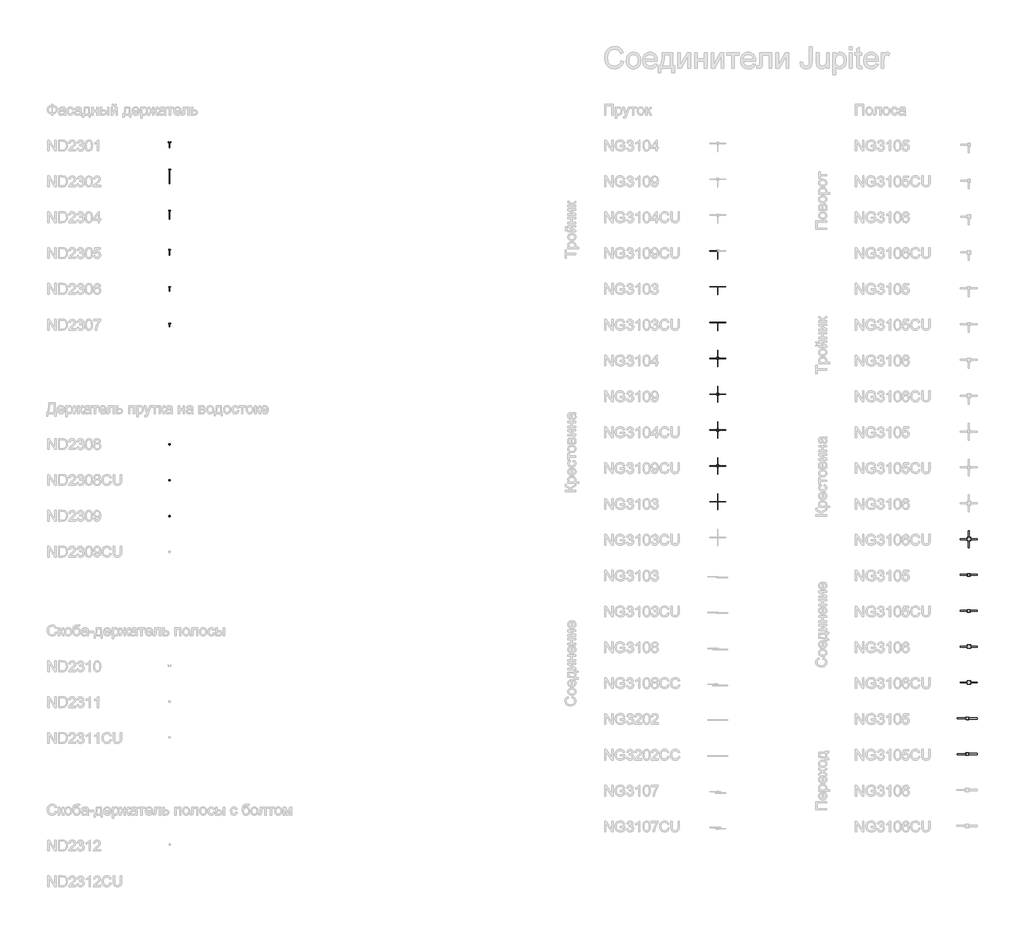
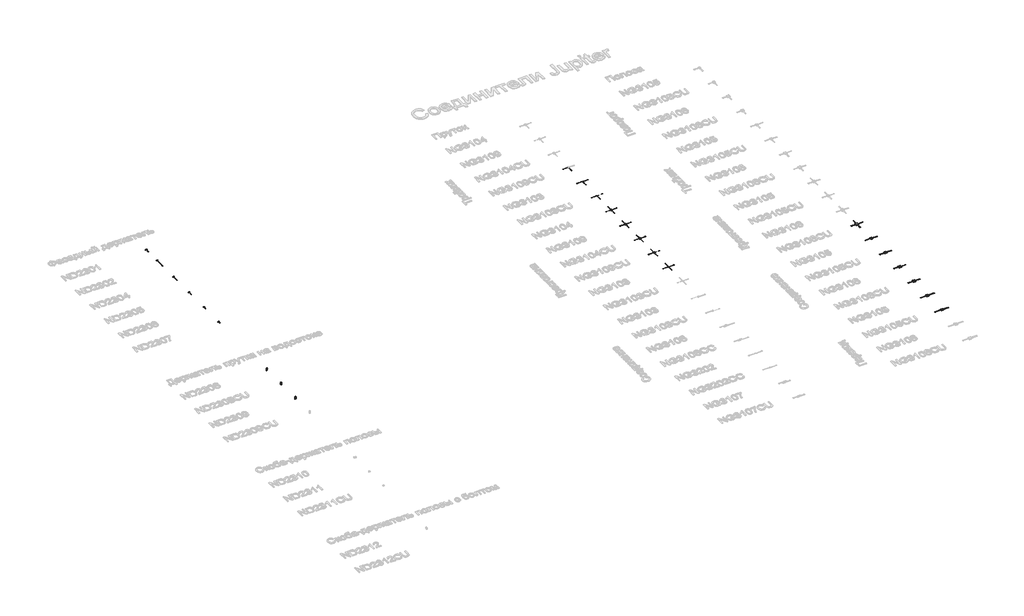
# One storey, part 5 of 124: 44 duct segments, 20 proxies, 14 duct fittings.
"""IFC4 building model written with IfcOpenShell, lengths in millimetres."""

from ifc_helpers import new_model, si_unit, point, frame, frame_2d, origin, place, context, project, spatial, polyline, circle_curve, trimmed, segment, composite_curve, outline, extrude, transform, mapped, element, save
from components import security_devices_68ae9aea, security_devices_21ef5ac7, security_devices_afe2594a, security_devices_cb26ebee, security_devices_21056cdb, security_devices_d5e764b4, security_devices_a2ca83d2, security_devices_a8bf1533, security_devices_80b7fa10, security_devices_2277527c, duct_fitting_6c424e49, duct_fitting_e05f92f2, duct_fitting_2b8fa772, duct_fitting_3ef68fe0, duct_fitting_97711104, duct_fitting_382dbbc1, duct_fitting_08c6bc62

model = new_model("IFC4")

# Units and contexts
model_context = context("Model", 3, world=origin())
ifc_project = project(units=[si_unit("LENGTHUNIT", "METRE", prefix="MILLI")], contexts=[model_context])

# Site, building, storey
site = spatial("IfcSite", under=ifc_project)
building = spatial("IfcBuilding", under=site)
storey = spatial("IfcBuildingStorey", under=building, Name="Этаж 01", Elevation=0.0)

# Proxies
placement = place(None, origin())
security_devices_shape = security_devices_68ae9aea(model_context)
element("IfcBuildingElementProxy", 1, Name="КНС_СоединительПолосаПолоса_DKC : NG3105_Горячеоцинкованная сталь_80х70 мм", ObjectType="КНС_СоединительПолосаПолоса_DKC : NG3105_Горячеоцинкованная сталь_80х70 мм", at=placement, inside=storey, context=model_context, shape_type="MappedRepresentation", body=[
    mapped(security_devices_shape, transform((59863.3070748, -17351.033182, 0.0), x_axis=(1.0, 0.0, 0.0), y_axis=(0.0, 1.0, 0.0), z_axis=(0.0, 0.0, 1.0))),
])
element("IfcBuildingElementProxy", 2, Name="КНС_СоединительПолосаПолоса_DKC : NG3105_Горячеоцинкованная сталь_80х70 мм", ObjectType="КНС_СоединительПолосаПолоса_DKC : NG3105_Горячеоцинкованная сталь_80х70 мм", at=placement, inside=storey, context=model_context, shape_type="MappedRepresentation", body=[
    mapped(security_devices_shape, transform((59823.3070748, -21351.033182, 0.0), x_axis=(1.0, 0.0, 0.0), y_axis=(0.0, 1.0, 0.0), z_axis=(0.0, 0.0, 1.0))),
])
element("IfcBuildingElementProxy", 3, Name="КНС_СоединительПолосаПолоса_DKC : NG3105CU_Медь_80х70 мм", ObjectType="КНС_СоединительПолосаПолоса_DKC : NG3105CU_Медь_80х70 мм", at=placement, inside=storey, context=model_context, shape_type="MappedRepresentation", body=[
    mapped(security_devices_shape, transform((59863.3070748, -18351.033182, 0.0), x_axis=(1.0, 0.0, 0.0), y_axis=(0.0, 1.0, 0.0), z_axis=(0.0, 0.0, 1.0))),
])
element("IfcBuildingElementProxy", 4, Name="КНС_СоединительПолосаПолоса_DKC : NG3105CU_Медь_80х70 мм", ObjectType="КНС_СоединительПолосаПолоса_DKC : NG3105CU_Медь_80х70 мм", at=placement, inside=storey, context=model_context, shape_type="MappedRepresentation", body=[
    mapped(security_devices_shape, transform((59823.3070748, -22351.033182, 0.0), x_axis=(1.0, 0.0, 0.0), y_axis=(0.0, 1.0, 0.0), z_axis=(0.0, 0.0, 1.0))),
])
security_devices_2_shape = security_devices_21ef5ac7(model_context)
element("IfcBuildingElementProxy", 5, Name="КНС_СоединительПолосаПолоса_DKC : NG3106_Горячеоцинкованная сталь_100х100 мм", ObjectType="КНС_СоединительПолосаПолоса_DKC : NG3106_Горячеоцинкованная сталь_100х100 мм", at=placement, inside=storey, context=model_context, shape_type="MappedRepresentation", body=[
    mapped(security_devices_2_shape, transform((59863.3070748, -19351.033182, 0.0), x_axis=(1.0, 0.0, 0.0), y_axis=(0.0, 1.0, 0.0), z_axis=(0.0, 0.0, 1.0))),
])
element("IfcBuildingElementProxy", 6, Name="КНС_СоединительПолосаПолоса_DKC : NG3106CU_Медь_100х100 мм", ObjectType="КНС_СоединительПолосаПолоса_DKC : NG3106CU_Медь_100х100 мм", at=placement, inside=storey, context=model_context, shape_type="MappedRepresentation", body=[
    mapped(security_devices_2_shape, transform((59863.3070748, -16351.033182, 0.0), x_axis=(1.0, 0.0, 0.0), y_axis=(0.0, 1.0, 0.0), z_axis=(0.0, 0.0, 1.0))),
])
element("IfcBuildingElementProxy", 7, Name="КНС_СоединительПолосаПолоса_DKC : NG3106CU_Медь_100х100 мм", ObjectType="КНС_СоединительПолосаПолоса_DKC : NG3106CU_Медь_100х100 мм", at=placement, inside=storey, context=model_context, shape_type="MappedRepresentation", body=[
    mapped(security_devices_2_shape, transform((59863.3070748, -20351.033182, 0.0), x_axis=(1.0, 0.0, 0.0), y_axis=(0.0, 1.0, 0.0), z_axis=(0.0, 0.0, 1.0))),
])
security_devices_3_shape = security_devices_afe2594a(model_context)
element("IfcBuildingElementProxy", 8, Name="КНС_СоединительПрутокПруток_DKC : Горячеоцинкованная сталь", ObjectType="КНС_СоединительПрутокПруток_DKC : Горячеоцинкованная сталь", at=placement, inside=storey, context=model_context, shape_type="MappedRepresentation", body=[
    mapped(security_devices_3_shape, transform((52856.4464175, -11309.3160042, 0.0), x_axis=(0.0, -1.0, 0.0), y_axis=(1.0, 0.0, 0.0), z_axis=(0.0, 0.0, 1.0))),
])
element("IfcBuildingElementProxy", 9, Name="КНС_СоединительПрутокПруток_DKC : Горячеоцинкованная сталь", ObjectType="КНС_СоединительПрутокПруток_DKC : Горячеоцинкованная сталь", at=placement, inside=storey, context=model_context, shape_type="MappedRepresentation", body=[
    mapped(security_devices_3_shape, transform((52856.4464175, -12309.3160042, 0.0), x_axis=(0.0, -1.0, 0.0), y_axis=(1.0, 0.0, 0.0), z_axis=(0.0, 0.0, 1.0))),
])
element("IfcBuildingElementProxy", 10, Name="КНС_СоединительПрутокПруток_DKC : Медь", ObjectType="КНС_СоединительПрутокПруток_DKC : Медь", at=placement, inside=storey, context=model_context, shape_type="MappedRepresentation", body=[
    mapped(security_devices_3_shape, transform((52856.4464175, -13309.3160042, 0.0), x_axis=(0.0, -1.0, 0.0), y_axis=(1.0, 0.0, 0.0), z_axis=(0.0, 0.0, 1.0))),
])
element("IfcBuildingElementProxy", 11, Name="КНС_СоединительПрутокПруток_DKC : Медь", ObjectType="КНС_СоединительПрутокПруток_DKC : Медь", at=placement, inside=storey, context=model_context, shape_type="MappedRepresentation", body=[
    mapped(security_devices_3_shape, transform((52856.4464175, -14309.3160042, 0.0), x_axis=(0.0, -1.0, 0.0), y_axis=(1.0, 0.0, 0.0), z_axis=(0.0, 0.0, 1.0))),
])
security_devices_4_shape = security_devices_cb26ebee(model_context)
element("IfcBuildingElementProxy", 12, Name="КНС_ДержательФасадный_DKC : ND2301_Горячеоцинкованная сталь_160 мм", ObjectType="КНС_ДержательФасадный_DKC : ND2301_Горячеоцинкованная сталь_160 мм", at=placement, inside=storey, context=model_context, shape_type="MappedRepresentation", body=[
    mapped(security_devices_4_shape, transform((37561.6677041, -5365.2224286, 0.0), x_axis=(1.0, 0.0, 0.0), y_axis=(0.0, 1.0, 0.0), z_axis=(0.0, 0.0, 1.0))),
])
security_devices_5_shape = security_devices_21056cdb(model_context)
element("IfcBuildingElementProxy", 13, Name="КНС_ДержательФасадный_DKC : ND2302_Горячеоцинкованная сталь_400 мм", ObjectType="КНС_ДержательФасадный_DKC : ND2302_Горячеоцинкованная сталь_400 мм", at=placement, inside=storey, context=model_context, shape_type="MappedRepresentation", body=[
    mapped(security_devices_5_shape, transform((37561.6677041, -6365.2224286, 0.0), x_axis=(1.0, 0.0, 0.0), y_axis=(0.0, 1.0, 0.0), z_axis=(0.0, 0.0, 1.0))),
])
security_devices_6_shape = security_devices_d5e764b4(model_context)
element("IfcBuildingElementProxy", 14, Name="КНС_ДержательФасадный_DKC : ND2304_Горячеоцинкованная сталь_250 мм", ObjectType="КНС_ДержательФасадный_DKC : ND2304_Горячеоцинкованная сталь_250 мм", at=placement, inside=storey, context=model_context, shape_type="MappedRepresentation", body=[
    mapped(security_devices_6_shape, transform((37561.6677041, -7365.2224286, 0.0), x_axis=(1.0, 0.0, 0.0), y_axis=(0.0, 1.0, 0.0), z_axis=(0.0, 0.0, 1.0))),
])
security_devices_7_shape = security_devices_a2ca83d2(model_context)
element("IfcBuildingElementProxy", 15, Name="КНС_ДержательФасадный_DKC : ND2305_Горячеоцинкованная сталь_160 мм", ObjectType="КНС_ДержательФасадный_DKC : ND2305_Горячеоцинкованная сталь_160 мм", at=placement, inside=storey, context=model_context, shape_type="MappedRepresentation", body=[
    mapped(security_devices_7_shape, transform((37561.6677041, -8365.2224286, 0.0), x_axis=(1.0, 0.0, 0.0), y_axis=(0.0, 1.0, 0.0), z_axis=(0.0, 0.0, 1.0))),
])
security_devices_8_shape = security_devices_a8bf1533(model_context)
element("IfcBuildingElementProxy", 16, Name="КНС_ДержательФасадный_DKC : ND2306_Горячеоцинкованная сталь_125 мм", ObjectType="КНС_ДержательФасадный_DKC : ND2306_Горячеоцинкованная сталь_125 мм", at=placement, inside=storey, context=model_context, shape_type="MappedRepresentation", body=[
    mapped(security_devices_8_shape, transform((37561.6677041, -9365.2224286, 0.0), x_axis=(1.0, 0.0, 0.0), y_axis=(0.0, 1.0, 0.0), z_axis=(0.0, 0.0, 1.0))),
])
security_devices_9_shape = security_devices_80b7fa10(model_context)
element("IfcBuildingElementProxy", 17, Name="КНС_ДержательФасадный_DKC : ND2307_Горячеоцинкованная сталь_100 мм", ObjectType="КНС_ДержательФасадный_DKC : ND2307_Горячеоцинкованная сталь_100 мм", at=placement, inside=storey, context=model_context, shape_type="MappedRepresentation", body=[
    mapped(security_devices_9_shape, transform((37561.6677041, -10365.2224286, 0.0), x_axis=(1.0, 0.0, 0.0), y_axis=(0.0, 1.0, 0.0), z_axis=(0.0, 0.0, 1.0))),
])
security_devices_10_shape = security_devices_2277527c(model_context)
element("IfcBuildingElementProxy", 18, Name="КНС_ДержательПруткаНаВодостоке_DKC : ND2308_Горячеоцинкованная сталь", ObjectType="КНС_ДержательПруткаНаВодостоке_DKC : ND2308_Горячеоцинкованная сталь", at=placement, inside=storey, context=model_context, shape_type="MappedRepresentation", body=[
    mapped(security_devices_10_shape, transform((37561.6677041, -13696.248794, 0.0), x_axis=(1.0, 0.0, 0.0), y_axis=(0.0, 1.0, 0.0), z_axis=(0.0, 0.0, 1.0))),
])
element("IfcBuildingElementProxy", 19, Name="КНС_ДержательПруткаНаВодостоке_DKC : ND2308CU_Медь", ObjectType="КНС_ДержательПруткаНаВодостоке_DKC : ND2308CU_Медь", at=placement, inside=storey, context=model_context, shape_type="MappedRepresentation", body=[
    mapped(security_devices_10_shape, transform((37561.6677041, -14696.248794, 0.0), x_axis=(1.0, 0.0, 0.0), y_axis=(0.0, 1.0, 0.0), z_axis=(0.0, 0.0, 1.0))),
])
element("IfcBuildingElementProxy", 20, Name="КНС_ДержательПруткаНаВодостоке_DKC : ND2309_Горячеоцинкованная сталь", ObjectType="КНС_ДержательПруткаНаВодостоке_DKC : ND2309_Горячеоцинкованная сталь", at=placement, inside=storey, context=model_context, shape_type="MappedRepresentation", body=[
    mapped(security_devices_10_shape, transform((37561.6677041, -15696.248794, 0.0), x_axis=(1.0, 0.0, 0.0), y_axis=(0.0, 1.0, 0.0), z_axis=(0.0, 0.0, 1.0))),
])

# Duct fittings
duct_fitting_shape = duct_fitting_6c424e49(model_context)
element("IfcDuctFitting", 21, ObjectType="КНС_Крестовина_Полоса_Неспецифицируемое_DKC : NG3106CU_Медь_100х100 мм", at=placement, inside=storey, context=model_context, shape_type="MappedRepresentation", body=[
    mapped(duct_fitting_shape, transform((59872.0570748, -16351.033182, 0.0), x_axis=(1.0, 0.0, 0.0), y_axis=(0.0, 1.0, 0.0), z_axis=(0.0, 0.0, 1.0))),
])
duct_fitting_2_shape = duct_fitting_e05f92f2(model_context)
element("IfcDuctFitting", 22, ObjectType="КНС_Крестовина_Пруток_Неспецифицируемое_DKC : NG3104_NG3109_Горячеоцинкованная сталь", at=placement, inside=storey, context=model_context, shape_type="MappedRepresentation", body=[
    mapped(duct_fitting_2_shape, transform((52856.4464175, -12309.3160042, 0.0), x_axis=(0.0, -1.0, 0.0), y_axis=(1.0, 0.0, 0.0), z_axis=(0.0, 0.0, 1.0))),
])
element("IfcDuctFitting", 23, ObjectType="КНС_Крестовина_Пруток_Неспецифицируемое_DKC : NG3104CU_NG3109CU_Медь", at=placement, inside=storey, context=model_context, shape_type="MappedRepresentation", body=[
    mapped(duct_fitting_2_shape, transform((52856.4464175, -14309.3160042, 0.0), x_axis=(0.0, -1.0, 0.0), y_axis=(1.0, 0.0, 0.0), z_axis=(0.0, 0.0, 1.0))),
])
duct_fitting_3_shape = duct_fitting_2b8fa772(model_context)
element("IfcDuctFitting", 24, ObjectType="КНС_Тройник_Пруток_Неспецифицируемое_DKC : NG3103_Горячеоцинкованная сталь", at=placement, inside=storey, context=model_context, shape_type="MappedRepresentation", body=[
    mapped(duct_fitting_3_shape, transform((52856.4464175, -9309.3160042, 0.0), x_axis=(1.0, 0.0, 0.0), y_axis=(0.0, 1.0, 0.0), z_axis=(0.0, 0.0, 1.0))),
])
duct_fitting_4_shape = duct_fitting_3ef68fe0(model_context)
element("IfcDuctFitting", 25, ObjectType="КНС_Крестовина_Пруток_Неспецифицируемое_DKC : NG3104_NG3109_Горячеоцинкованная сталь", at=placement, inside=storey, context=model_context, shape_type="MappedRepresentation", body=[
    mapped(duct_fitting_4_shape, transform((52856.4464175, -11309.3160042, 0.0), x_axis=(0.0, -1.0, 0.0), y_axis=(1.0, 0.0, 0.0), z_axis=(0.0, 0.0, 1.0))),
])
element("IfcDuctFitting", 26, ObjectType="КНС_Крестовина_Пруток_Неспецифицируемое_DKC : NG3104CU_NG3109CU_Медь", at=placement, inside=storey, context=model_context, shape_type="MappedRepresentation", body=[
    mapped(duct_fitting_4_shape, transform((52856.4464175, -13309.3160042, 0.0), x_axis=(0.0, -1.0, 0.0), y_axis=(1.0, 0.0, 0.0), z_axis=(0.0, 0.0, 1.0))),
])
element("IfcDuctFitting", 27, ObjectType="КНС_Тройник_Пруток_Неспецифицируемое_DKC : NG3103CU_Медь", at=placement, inside=storey, context=model_context, shape_type="MappedRepresentation", body=[
    mapped(duct_fitting_3_shape, transform((52856.4464175, -10309.3160042, 0.0), x_axis=(1.0, 0.0, 0.0), y_axis=(0.0, 1.0, 0.0), z_axis=(0.0, 0.0, 1.0))),
])
duct_fitting_5_shape = duct_fitting_97711104(model_context)
element("IfcDuctFitting", 28, ObjectType="КНС_Крестовина_Пруток_Неспецифицируемое_DKC : NG3103_Горячеоцинкованная сталь", at=placement, inside=storey, context=model_context, shape_type="MappedRepresentation", body=[
    mapped(duct_fitting_5_shape, transform((52856.4464175, -15309.3160042, 0.0), x_axis=(0.0, -1.0, 0.0), y_axis=(1.0, 0.0, 0.0), z_axis=(0.0, 0.0, 1.0))),
])
duct_fitting_6_shape = duct_fitting_382dbbc1(model_context)
element("IfcDuctFitting", 29, ObjectType="КНС_Соединение_Полоса_Неспецифицируемое_DKC : NG3105_Горячеоцинкованная сталь_80х70 мм", at=placement, inside=storey, context=model_context, shape_type="MappedRepresentation", body=[
    mapped(duct_fitting_6_shape, transform((59872.0570748, -17351.033182, 0.0), x_axis=(1.0, 0.0, 0.0), y_axis=(0.0, 1.0, 0.0), z_axis=(0.0, 0.0, 1.0))),
])
element("IfcDuctFitting", 30, ObjectType="КНС_Соединение_Полоса_Неспецифицируемое_DKC : NG3105CU_Медь_80х70 мм", at=placement, inside=storey, context=model_context, shape_type="MappedRepresentation", body=[
    mapped(duct_fitting_6_shape, transform((59872.0570748, -18351.033182, 0.0), x_axis=(1.0, 0.0, 0.0), y_axis=(0.0, 1.0, 0.0), z_axis=(0.0, 0.0, 1.0))),
])
duct_fitting_7_shape = duct_fitting_08c6bc62(model_context)
element("IfcDuctFitting", 31, ObjectType="КНС_Соединение_Полоса_Неспецифицируемое_DKC : NG3106_Горячеоцинкованная сталь_100х100 мм", at=placement, inside=storey, context=model_context, shape_type="MappedRepresentation", body=[
    mapped(duct_fitting_7_shape, transform((59872.0570748, -19351.033182, 0.0), x_axis=(1.0, 0.0, 0.0), y_axis=(0.0, 1.0, 0.0), z_axis=(0.0, 0.0, 1.0))),
])
element("IfcDuctFitting", 32, ObjectType="КНС_Соединение_Полоса_Неспецифицируемое_DKC : NG3106CU_Медь_100х100 мм", at=placement, inside=storey, context=model_context, shape_type="MappedRepresentation", body=[
    mapped(duct_fitting_7_shape, transform((59872.0570748, -20351.033182, 0.0), x_axis=(1.0, 0.0, 0.0), y_axis=(0.0, 1.0, 0.0), z_axis=(0.0, 0.0, 1.0))),
])
element("IfcDuctFitting", 33, ObjectType="КНС_Переход_Полоса_Неспецифицируемое_DKC : NG3105_Горячеоцинкованная сталь_80х70 мм", at=placement, inside=storey, context=model_context, shape_type="MappedRepresentation", body=[
    mapped(duct_fitting_7_shape, transform((59832.0570748, -21351.033182, 0.0), x_axis=(1.0, 0.0, 0.0), y_axis=(0.0, 1.0, 0.0), z_axis=(0.0, 0.0, 1.0))),
])
element("IfcDuctFitting", 34, ObjectType="КНС_Переход_Полоса_Неспецифицируемое_DKC : NG3105CU_Медь_80х70 мм", at=placement, inside=storey, context=model_context, shape_type="MappedRepresentation", body=[
    mapped(duct_fitting_7_shape, transform((59832.0570748, -22351.033182, 0.0), x_axis=(1.0, 0.0, 0.0), y_axis=(0.0, 1.0, 0.0), z_axis=(0.0, 0.0, 1.0))),
])

# Duct segments
element("IfcDuctSegment", 35, ObjectType="КНС_Полоса_Горячеоцинкованная_25х4/40х4/40x5/50х5мм_DKC", at=placement, inside=storey, context=model_context, shape_type="SweptSolid", body=[
    extrude(outline(polyline([(59903.3070748, -16363.533182), (59903.3070748, -16338.533182), (60103.3070748, -16338.533182), (60103.3070748, -16363.533182), (59903.3070748, -16363.533182)])), frame((0.0, 0.0, -2.0), z_axis=(0.0, 0.0, 1.0), x_axis=(1.0, 0.0, 0.0)), (0.0, 0.0, 1.0), 4.0),
])
element("IfcDuctSegment", 36, ObjectType="КНС_Полоса_Горячеоцинкованная_25х4/40х4/40x5/50х5мм_DKC", at=placement, inside=storey, context=model_context, shape_type="SweptSolid", body=[
    extrude(outline(polyline([(59875.8070748, -16301.033182), (59850.8070748, -16301.033182), (59850.8070748, -16116.033182), (59875.8070748, -16116.033182), (59875.8070748, -16301.033182)])), frame((0.0, 0.0, -2.0), z_axis=(0.0, 0.0, 1.0), x_axis=(1.0, 0.0, 0.0)), (0.0, 0.0, 1.0), 4.0),
])
element("IfcDuctSegment", 37, ObjectType="КНС_Полоса_Горячеоцинкованная_25х4/40х4/40x5/50х5мм_DKC", at=placement, inside=storey, context=model_context, shape_type="SweptSolid", body=[
    extrude(outline(polyline([(59623.3070748, -16363.533182), (59623.3070748, -16338.533182), (59823.3070748, -16338.533182), (59823.3070748, -16363.533182), (59623.3070748, -16363.533182)])), frame((0.0, 0.0, -2.0), z_axis=(0.0, 0.0, 1.0), x_axis=(1.0, 0.0, 0.0)), (0.0, 0.0, 1.0), 4.0),
])
element("IfcDuctSegment", 38, ObjectType="КНС_Полоса_Горячеоцинкованная_25х4/40х4/40x5/50х5мм_DKC", at=placement, inside=storey, context=model_context, shape_type="SweptSolid", body=[
    extrude(outline(polyline([(59875.8070748, -16586.033182), (59850.8070748, -16586.033182), (59850.8070748, -16401.033182), (59875.8070748, -16401.033182), (59875.8070748, -16586.033182)])), frame((0.0, 0.0, -2.0), z_axis=(0.0, 0.0, 1.0), x_axis=(1.0, 0.0, 0.0)), (0.0, 0.0, 1.0), 4.0),
])
element("IfcDuctSegment", 39, ObjectType="КНС_Полоса_Горячеоцинкованная_25х4/40х4/40x5/50х5мм_DKC", at=placement, inside=storey, context=model_context, shape_type="SweptSolid", body=[
    extrude(outline(polyline([(59903.3070748, -17363.533182), (59903.3070748, -17338.533182), (60103.3070748, -17338.533182), (60103.3070748, -17363.533182), (59903.3070748, -17363.533182)])), frame((0.0, 0.0, -2.0), z_axis=(0.0, 0.0, 1.0), x_axis=(1.0, 0.0, 0.0)), (0.0, 0.0, 1.0), 4.0),
])
element("IfcDuctSegment", 40, ObjectType="КНС_Полоса_Горячеоцинкованная_25х4/40х4/40x5/50х5мм_DKC", at=placement, inside=storey, context=model_context, shape_type="SweptSolid", body=[
    extrude(outline(polyline([(59903.3070748, -18363.533182), (59903.3070748, -18338.533182), (60103.3070748, -18338.533182), (60103.3070748, -18363.533182), (59903.3070748, -18363.533182)])), frame((0.0, 0.0, -2.0), z_axis=(0.0, 0.0, 1.0), x_axis=(1.0, 0.0, 0.0)), (0.0, 0.0, 1.0), 4.0),
])
element("IfcDuctSegment", 41, ObjectType="КНС_Полоса_Горячеоцинкованная_25х4/40х4/40x5/50х5мм_DKC", at=placement, inside=storey, context=model_context, shape_type="SweptSolid", body=[
    extrude(outline(polyline([(59913.3070748, -19363.533182), (59913.3070748, -19338.533182), (60103.3070748, -19338.533182), (60103.3070748, -19363.533182), (59913.3070748, -19363.533182)])), frame((0.0, 0.0, -2.0), z_axis=(0.0, 0.0, 1.0), x_axis=(1.0, 0.0, 0.0)), (0.0, 0.0, 1.0), 4.0),
])
element("IfcDuctSegment", 42, ObjectType="КНС_Полоса_Горячеоцинкованная_25х4/40х4/40x5/50х5мм_DKC", at=placement, inside=storey, context=model_context, shape_type="SweptSolid", body=[
    extrude(outline(polyline([(59913.3070748, -20363.533182), (59913.3070748, -20338.533182), (60103.3070748, -20338.533182), (60103.3070748, -20363.533182), (59913.3070748, -20363.533182)])), frame((0.0, 0.0, -2.0), z_axis=(0.0, 0.0, 1.0), x_axis=(1.0, 0.0, 0.0)), (0.0, 0.0, 1.0), 4.0),
])
element("IfcDuctSegment", 43, ObjectType="КНС_Пруток_Горячеоцинкованный_8/10мм_DKC", at=placement, inside=storey, context=model_context, shape_type="SweptSolid", body=[
    extrude(outline(composite_curve([segment(trimmed(circle_curve(frame_2d((0.0, 52856.4464175)), 5.0), [point((0.0, 52851.4464175))], [point((-5.0, 52856.4464175))], False, "CARTESIAN"), True, "CONTINUOUS"), segment(trimmed(circle_curve(frame_2d((0.0, 52856.4464175)), 5.0), [point((-5.0, 52856.4464175))], [point((0.0, 52861.4464175))], False, "CARTESIAN"), True, "CONTINUOUS"), segment(trimmed(circle_curve(frame_2d((0.0, 52856.4464175)), 5.0), [point((0.0, 52861.4464175))], [point((5.0, 52856.4464175))], False, "CARTESIAN"), True, "CONTINUOUS"), segment(trimmed(circle_curve(frame_2d((0.0, 52856.4464175)), 5.0), [point((5.0, 52856.4464175))], [point((0.0, 52851.4464175))], False, "CARTESIAN"), True, "CONTINUOUS")], self_intersect=False)), frame((0.0, -8537.8160042, 0.0), z_axis=(0.0, 1.0, 0.0), x_axis=(0.0, 0.0, 1.0)), (0.0, 0.0, 1.0), 200.0),
])
element("IfcDuctSegment", 44, ObjectType="КНС_Пруток_Горячеоцинкованный_8/10мм_DKC", at=placement, inside=storey, context=model_context, shape_type="SweptSolid", body=[
    extrude(outline(composite_curve([segment(trimmed(circle_curve(frame_2d((-8309.3160042, 0.0)), 5.0), [point((-8304.3160042, 0.0))], [point((-8309.3160042, -5.0))], False, "CARTESIAN"), True, "CONTINUOUS"), segment(trimmed(circle_curve(frame_2d((-8309.3160042, 0.0)), 5.0), [point((-8309.3160042, -5.0))], [point((-8314.3160042, 0.0))], False, "CARTESIAN"), True, "CONTINUOUS"), segment(trimmed(circle_curve(frame_2d((-8309.3160042, 0.0)), 5.0), [point((-8314.3160042, 0.0))], [point((-8309.3160042, 5.0))], False, "CARTESIAN"), True, "CONTINUOUS"), segment(trimmed(circle_curve(frame_2d((-8309.3160042, 0.0)), 5.0), [point((-8309.3160042, 5.0))], [point((-8304.3160042, 0.0))], False, "CARTESIAN"), True, "CONTINUOUS")], self_intersect=False)), frame((52627.9464175, 0.0, 0.0), z_axis=(1.0, 0.0, 0.0), x_axis=(0.0, 1.0, 0.0)), (0.0, 0.0, 1.0), 200.0),
])
element("IfcDuctSegment", 45, ObjectType="КНС_Пруток_Горячеоцинкованный_8/10мм_DKC", at=placement, inside=storey, context=model_context, shape_type="SweptSolid", body=[
    extrude(outline(composite_curve([segment(trimmed(circle_curve(frame_2d((0.0, 52856.4464175)), 4.0), [point((0.0, 52852.4464175))], [point((-4.0, 52856.4464175))], False, "CARTESIAN"), True, "CONTINUOUS"), segment(trimmed(circle_curve(frame_2d((0.0, 52856.4464175)), 4.0), [point((-4.0, 52856.4464175))], [point((0.0, 52860.4464175))], False, "CARTESIAN"), True, "CONTINUOUS"), segment(trimmed(circle_curve(frame_2d((0.0, 52856.4464175)), 4.0), [point((0.0, 52860.4464175))], [point((4.0, 52856.4464175))], False, "CARTESIAN"), True, "CONTINUOUS"), segment(trimmed(circle_curve(frame_2d((0.0, 52856.4464175)), 4.0), [point((4.0, 52856.4464175))], [point((0.0, 52852.4464175))], False, "CARTESIAN"), True, "CONTINUOUS")], self_intersect=False)), frame((0.0, -9537.8160042, 0.0), z_axis=(0.0, 1.0, 0.0), x_axis=(0.0, 0.0, 1.0)), (0.0, 0.0, 1.0), 198.5),
])
element("IfcDuctSegment", 46, ObjectType="КНС_Пруток_Горячеоцинкованный_8/10мм_DKC", at=placement, inside=storey, context=model_context, shape_type="SweptSolid", body=[
    extrude(outline(composite_curve([segment(trimmed(circle_curve(frame_2d((-9309.3160042, 0.0)), 4.0), [point((-9305.3160042, 0.0))], [point((-9309.3160042, -4.0))], False, "CARTESIAN"), True, "CONTINUOUS"), segment(trimmed(circle_curve(frame_2d((-9309.3160042, 0.0)), 4.0), [point((-9309.3160042, -4.0))], [point((-9313.3160042, 0.0))], False, "CARTESIAN"), True, "CONTINUOUS"), segment(trimmed(circle_curve(frame_2d((-9309.3160042, 0.0)), 4.0), [point((-9313.3160042, 0.0))], [point((-9309.3160042, 4.0))], False, "CARTESIAN"), True, "CONTINUOUS"), segment(trimmed(circle_curve(frame_2d((-9309.3160042, 0.0)), 4.0), [point((-9309.3160042, 4.0))], [point((-9305.3160042, 0.0))], False, "CARTESIAN"), True, "CONTINUOUS")], self_intersect=False)), frame((52627.9464175, 0.0, 0.0), z_axis=(1.0, 0.0, 0.0), x_axis=(0.0, 1.0, 0.0)), (0.0, 0.0, 1.0), 198.5),
])
element("IfcDuctSegment", 47, ObjectType="КНС_Пруток_Горячеоцинкованный_8/10мм_DKC", at=placement, inside=storey, context=model_context, shape_type="SweptSolid", body=[
    extrude(outline(composite_curve([segment(trimmed(circle_curve(frame_2d((-9309.3160042, 0.0)), 4.0), [point((-9305.3160042, 0.0))], [point((-9309.3160042, -4.0))], False, "CARTESIAN"), True, "CONTINUOUS"), segment(trimmed(circle_curve(frame_2d((-9309.3160042, 0.0)), 4.0), [point((-9309.3160042, -4.0))], [point((-9313.3160042, 0.0))], False, "CARTESIAN"), True, "CONTINUOUS"), segment(trimmed(circle_curve(frame_2d((-9309.3160042, 0.0)), 4.0), [point((-9313.3160042, 0.0))], [point((-9309.3160042, 4.0))], False, "CARTESIAN"), True, "CONTINUOUS"), segment(trimmed(circle_curve(frame_2d((-9309.3160042, 0.0)), 4.0), [point((-9309.3160042, 4.0))], [point((-9305.3160042, 0.0))], False, "CARTESIAN"), True, "CONTINUOUS")], self_intersect=False)), frame((52871.4464175, 0.0, 0.0), z_axis=(1.0, 0.0, 0.0), x_axis=(0.0, 1.0, 0.0)), (0.0, 0.0, 1.0), 213.5),
])
element("IfcDuctSegment", 48, ObjectType="КНС_Пруток_Горячеоцинкованный_8/10мм_DKC", at=placement, inside=storey, context=model_context, shape_type="SweptSolid", body=[
    extrude(outline(composite_curve([segment(trimmed(circle_curve(frame_2d((0.0, 52856.4464175)), 4.0), [point((0.0, 52852.4464175))], [point((-4.0, 52856.4464175))], False, "CARTESIAN"), True, "CONTINUOUS"), segment(trimmed(circle_curve(frame_2d((0.0, 52856.4464175)), 4.0), [point((-4.0, 52856.4464175))], [point((0.0, 52860.4464175))], False, "CARTESIAN"), True, "CONTINUOUS"), segment(trimmed(circle_curve(frame_2d((0.0, 52856.4464175)), 4.0), [point((0.0, 52860.4464175))], [point((4.0, 52856.4464175))], False, "CARTESIAN"), True, "CONTINUOUS"), segment(trimmed(circle_curve(frame_2d((0.0, 52856.4464175)), 4.0), [point((4.0, 52856.4464175))], [point((0.0, 52852.4464175))], False, "CARTESIAN"), True, "CONTINUOUS")], self_intersect=False)), frame((0.0, -10537.8160042, 0.0), z_axis=(0.0, 1.0, 0.0), x_axis=(0.0, 0.0, 1.0)), (0.0, 0.0, 1.0), 198.5),
])
element("IfcDuctSegment", 49, ObjectType="КНС_Пруток_Горячеоцинкованный_8/10мм_DKC", at=placement, inside=storey, context=model_context, shape_type="SweptSolid", body=[
    extrude(outline(composite_curve([segment(trimmed(circle_curve(frame_2d((-10309.3160042, 0.0)), 4.0), [point((-10305.3160042, 0.0))], [point((-10309.3160042, -4.0))], False, "CARTESIAN"), True, "CONTINUOUS"), segment(trimmed(circle_curve(frame_2d((-10309.3160042, 0.0)), 4.0), [point((-10309.3160042, -4.0))], [point((-10313.3160042, 0.0))], False, "CARTESIAN"), True, "CONTINUOUS"), segment(trimmed(circle_curve(frame_2d((-10309.3160042, 0.0)), 4.0), [point((-10313.3160042, 0.0))], [point((-10309.3160042, 4.0))], False, "CARTESIAN"), True, "CONTINUOUS"), segment(trimmed(circle_curve(frame_2d((-10309.3160042, 0.0)), 4.0), [point((-10309.3160042, 4.0))], [point((-10305.3160042, 0.0))], False, "CARTESIAN"), True, "CONTINUOUS")], self_intersect=False)), frame((52627.9464175, 0.0, 0.0), z_axis=(1.0, 0.0, 0.0), x_axis=(0.0, 1.0, 0.0)), (0.0, 0.0, 1.0), 198.5),
])
element("IfcDuctSegment", 50, ObjectType="КНС_Пруток_Горячеоцинкованный_8/10мм_DKC", at=placement, inside=storey, context=model_context, shape_type="SweptSolid", body=[
    extrude(outline(composite_curve([segment(trimmed(circle_curve(frame_2d((-10309.3160042, 0.0)), 4.0), [point((-10305.3160042, 0.0))], [point((-10309.3160042, -4.0))], False, "CARTESIAN"), True, "CONTINUOUS"), segment(trimmed(circle_curve(frame_2d((-10309.3160042, 0.0)), 4.0), [point((-10309.3160042, -4.0))], [point((-10313.3160042, 0.0))], False, "CARTESIAN"), True, "CONTINUOUS"), segment(trimmed(circle_curve(frame_2d((-10309.3160042, 0.0)), 4.0), [point((-10313.3160042, 0.0))], [point((-10309.3160042, 4.0))], False, "CARTESIAN"), True, "CONTINUOUS"), segment(trimmed(circle_curve(frame_2d((-10309.3160042, 0.0)), 4.0), [point((-10309.3160042, 4.0))], [point((-10305.3160042, 0.0))], False, "CARTESIAN"), True, "CONTINUOUS")], self_intersect=False)), frame((52871.4464175, 0.0, 0.0), z_axis=(1.0, 0.0, 0.0), x_axis=(0.0, 1.0, 0.0)), (0.0, 0.0, 1.0), 213.5),
])
element("IfcDuctSegment", 51, ObjectType="КНС_Пруток_Горячеоцинкованный_8/10мм_DKC", at=placement, inside=storey, context=model_context, shape_type="SweptSolid", body=[
    extrude(outline(composite_curve([segment(trimmed(circle_curve(frame_2d((0.0, 52856.4464175)), 4.0), [point((0.0, 52852.4464175))], [point((-4.0, 52856.4464175))], False, "CARTESIAN"), True, "CONTINUOUS"), segment(trimmed(circle_curve(frame_2d((0.0, 52856.4464175)), 4.0), [point((-4.0, 52856.4464175))], [point((0.0, 52860.4464175))], False, "CARTESIAN"), True, "CONTINUOUS"), segment(trimmed(circle_curve(frame_2d((0.0, 52856.4464175)), 4.0), [point((0.0, 52860.4464175))], [point((4.0, 52856.4464175))], False, "CARTESIAN"), True, "CONTINUOUS"), segment(trimmed(circle_curve(frame_2d((0.0, 52856.4464175)), 4.0), [point((4.0, 52856.4464175))], [point((0.0, 52852.4464175))], False, "CARTESIAN"), True, "CONTINUOUS")], self_intersect=False)), frame((0.0, -11537.8160042, 0.0), z_axis=(0.0, 1.0, 0.0), x_axis=(0.0, 0.0, 1.0)), (0.0, 0.0, 1.0), 200.0),
])
element("IfcDuctSegment", 52, ObjectType="КНС_Пруток_Горячеоцинкованный_8/10мм_DKC", at=placement, inside=storey, context=model_context, shape_type="SweptSolid", body=[
    extrude(outline(composite_curve([segment(trimmed(circle_curve(frame_2d((-11309.3160042, 0.0)), 4.0), [point((-11305.3160042, 0.0))], [point((-11309.3160042, -4.0))], False, "CARTESIAN"), True, "CONTINUOUS"), segment(trimmed(circle_curve(frame_2d((-11309.3160042, 0.0)), 4.0), [point((-11309.3160042, -4.0))], [point((-11313.3160042, 0.0))], False, "CARTESIAN"), True, "CONTINUOUS"), segment(trimmed(circle_curve(frame_2d((-11309.3160042, 0.0)), 4.0), [point((-11313.3160042, 0.0))], [point((-11309.3160042, 4.0))], False, "CARTESIAN"), True, "CONTINUOUS"), segment(trimmed(circle_curve(frame_2d((-11309.3160042, 0.0)), 4.0), [point((-11309.3160042, 4.0))], [point((-11305.3160042, 0.0))], False, "CARTESIAN"), True, "CONTINUOUS")], self_intersect=False)), frame((52627.9464175, 0.0, 0.0), z_axis=(1.0, 0.0, 0.0), x_axis=(0.0, 1.0, 0.0)), (0.0, 0.0, 1.0), 200.0),
])
element("IfcDuctSegment", 53, ObjectType="КНС_Пруток_Горячеоцинкованный_8/10мм_DKC", at=placement, inside=storey, context=model_context, shape_type="SweptSolid", body=[
    extrude(outline(composite_curve([segment(trimmed(circle_curve(frame_2d((-11309.3160042, 0.0)), 4.0), [point((-11305.3160042, 0.0))], [point((-11309.3160042, -4.0))], False, "CARTESIAN"), True, "CONTINUOUS"), segment(trimmed(circle_curve(frame_2d((-11309.3160042, 0.0)), 4.0), [point((-11309.3160042, -4.0))], [point((-11313.3160042, 0.0))], False, "CARTESIAN"), True, "CONTINUOUS"), segment(trimmed(circle_curve(frame_2d((-11309.3160042, 0.0)), 4.0), [point((-11313.3160042, 0.0))], [point((-11309.3160042, 4.0))], False, "CARTESIAN"), True, "CONTINUOUS"), segment(trimmed(circle_curve(frame_2d((-11309.3160042, 0.0)), 4.0), [point((-11309.3160042, 4.0))], [point((-11305.3160042, 0.0))], False, "CARTESIAN"), True, "CONTINUOUS")], self_intersect=False)), frame((52884.9464175, 0.0, 0.0), z_axis=(1.0, 0.0, 0.0), x_axis=(0.0, 1.0, 0.0)), (0.0, 0.0, 1.0), 200.0),
])
element("IfcDuctSegment", 54, ObjectType="КНС_Пруток_Горячеоцинкованный_8/10мм_DKC", at=placement, inside=storey, context=model_context, shape_type="SweptSolid", body=[
    extrude(outline(composite_curve([segment(trimmed(circle_curve(frame_2d((0.0, 52856.4464175)), 4.0), [point((0.0, 52860.4464175))], [point((4.0, 52856.4464175))], False, "CARTESIAN"), True, "CONTINUOUS"), segment(trimmed(circle_curve(frame_2d((0.0, 52856.4464175)), 4.0), [point((4.0, 52856.4464175))], [point((0.0, 52852.4464175))], False, "CARTESIAN"), True, "CONTINUOUS"), segment(trimmed(circle_curve(frame_2d((0.0, 52856.4464175)), 4.0), [point((0.0, 52852.4464175))], [point((-4.0, 52856.4464175))], False, "CARTESIAN"), True, "CONTINUOUS"), segment(trimmed(circle_curve(frame_2d((0.0, 52856.4464175)), 4.0), [point((-4.0, 52856.4464175))], [point((0.0, 52860.4464175))], False, "CARTESIAN"), True, "CONTINUOUS")], self_intersect=False)), frame((0.0, -11280.8160042, 0.0), z_axis=(0.0, 1.0, 0.0), x_axis=(0.0, 0.0, 1.0)), (0.0, 0.0, 1.0), 200.0),
])
element("IfcDuctSegment", 55, ObjectType="КНС_Пруток_Горячеоцинкованный_8/10мм_DKC", at=placement, inside=storey, context=model_context, shape_type="SweptSolid", body=[
    extrude(outline(composite_curve([segment(trimmed(circle_curve(frame_2d((0.0, 52856.4464175)), 5.0), [point((0.0, 52851.4464175))], [point((-5.0, 52856.4464175))], False, "CARTESIAN"), True, "CONTINUOUS"), segment(trimmed(circle_curve(frame_2d((0.0, 52856.4464175)), 5.0), [point((-5.0, 52856.4464175))], [point((0.0, 52861.4464175))], False, "CARTESIAN"), True, "CONTINUOUS"), segment(trimmed(circle_curve(frame_2d((0.0, 52856.4464175)), 5.0), [point((0.0, 52861.4464175))], [point((5.0, 52856.4464175))], False, "CARTESIAN"), True, "CONTINUOUS"), segment(trimmed(circle_curve(frame_2d((0.0, 52856.4464175)), 5.0), [point((5.0, 52856.4464175))], [point((0.0, 52851.4464175))], False, "CARTESIAN"), True, "CONTINUOUS")], self_intersect=False)), frame((0.0, -12537.8160042, 0.0), z_axis=(0.0, 1.0, 0.0), x_axis=(0.0, 0.0, 1.0)), (0.0, 0.0, 1.0), 200.0),
])
element("IfcDuctSegment", 56, ObjectType="КНС_Пруток_Горячеоцинкованный_8/10мм_DKC", at=placement, inside=storey, context=model_context, shape_type="SweptSolid", body=[
    extrude(outline(composite_curve([segment(trimmed(circle_curve(frame_2d((-12309.3160042, 0.0)), 5.0), [point((-12304.3160042, 0.0))], [point((-12309.3160042, -5.0))], False, "CARTESIAN"), True, "CONTINUOUS"), segment(trimmed(circle_curve(frame_2d((-12309.3160042, 0.0)), 5.0), [point((-12309.3160042, -5.0))], [point((-12314.3160042, 0.0))], False, "CARTESIAN"), True, "CONTINUOUS"), segment(trimmed(circle_curve(frame_2d((-12309.3160042, 0.0)), 5.0), [point((-12314.3160042, 0.0))], [point((-12309.3160042, 5.0))], False, "CARTESIAN"), True, "CONTINUOUS"), segment(trimmed(circle_curve(frame_2d((-12309.3160042, 0.0)), 5.0), [point((-12309.3160042, 5.0))], [point((-12304.3160042, 0.0))], False, "CARTESIAN"), True, "CONTINUOUS")], self_intersect=False)), frame((52627.9464175, 0.0, 0.0), z_axis=(1.0, 0.0, 0.0), x_axis=(0.0, 1.0, 0.0)), (0.0, 0.0, 1.0), 200.0),
])
element("IfcDuctSegment", 57, ObjectType="КНС_Пруток_Горячеоцинкованный_8/10мм_DKC", at=placement, inside=storey, context=model_context, shape_type="SweptSolid", body=[
    extrude(outline(composite_curve([segment(trimmed(circle_curve(frame_2d((-12309.3160042, 0.0)), 5.0), [point((-12304.3160042, 0.0))], [point((-12309.3160042, -5.0))], False, "CARTESIAN"), True, "CONTINUOUS"), segment(trimmed(circle_curve(frame_2d((-12309.3160042, 0.0)), 5.0), [point((-12309.3160042, -5.0))], [point((-12314.3160042, 0.0))], False, "CARTESIAN"), True, "CONTINUOUS"), segment(trimmed(circle_curve(frame_2d((-12309.3160042, 0.0)), 5.0), [point((-12314.3160042, 0.0))], [point((-12309.3160042, 5.0))], False, "CARTESIAN"), True, "CONTINUOUS"), segment(trimmed(circle_curve(frame_2d((-12309.3160042, 0.0)), 5.0), [point((-12309.3160042, 5.0))], [point((-12304.3160042, 0.0))], False, "CARTESIAN"), True, "CONTINUOUS")], self_intersect=False)), frame((52884.9464175, 0.0, 0.0), z_axis=(1.0, 0.0, 0.0), x_axis=(0.0, 1.0, 0.0)), (0.0, 0.0, 1.0), 200.0),
])
element("IfcDuctSegment", 58, ObjectType="КНС_Пруток_Горячеоцинкованный_8/10мм_DKC", at=placement, inside=storey, context=model_context, shape_type="SweptSolid", body=[
    extrude(outline(composite_curve([segment(trimmed(circle_curve(frame_2d((0.0, 52856.4464175)), 5.0), [point((0.0, 52861.4464175))], [point((5.0, 52856.4464175))], False, "CARTESIAN"), True, "CONTINUOUS"), segment(trimmed(circle_curve(frame_2d((0.0, 52856.4464175)), 5.0), [point((5.0, 52856.4464175))], [point((0.0, 52851.4464175))], False, "CARTESIAN"), True, "CONTINUOUS"), segment(trimmed(circle_curve(frame_2d((0.0, 52856.4464175)), 5.0), [point((0.0, 52851.4464175))], [point((-5.0, 52856.4464175))], False, "CARTESIAN"), True, "CONTINUOUS"), segment(trimmed(circle_curve(frame_2d((0.0, 52856.4464175)), 5.0), [point((-5.0, 52856.4464175))], [point((0.0, 52861.4464175))], False, "CARTESIAN"), True, "CONTINUOUS")], self_intersect=False)), frame((0.0, -12280.8160042, 0.0), z_axis=(0.0, 1.0, 0.0), x_axis=(0.0, 0.0, 1.0)), (0.0, 0.0, 1.0), 200.0),
])
element("IfcDuctSegment", 59, ObjectType="КНС_Пруток_Горячеоцинкованный_8/10мм_DKC", at=placement, inside=storey, context=model_context, shape_type="SweptSolid", body=[
    extrude(outline(composite_curve([segment(trimmed(circle_curve(frame_2d((0.0, 52856.4464175)), 4.0), [point((0.0, 52852.4464175))], [point((-4.0, 52856.4464175))], False, "CARTESIAN"), True, "CONTINUOUS"), segment(trimmed(circle_curve(frame_2d((0.0, 52856.4464175)), 4.0), [point((-4.0, 52856.4464175))], [point((0.0, 52860.4464175))], False, "CARTESIAN"), True, "CONTINUOUS"), segment(trimmed(circle_curve(frame_2d((0.0, 52856.4464175)), 4.0), [point((0.0, 52860.4464175))], [point((4.0, 52856.4464175))], False, "CARTESIAN"), True, "CONTINUOUS"), segment(trimmed(circle_curve(frame_2d((0.0, 52856.4464175)), 4.0), [point((4.0, 52856.4464175))], [point((0.0, 52852.4464175))], False, "CARTESIAN"), True, "CONTINUOUS")], self_intersect=False)), frame((0.0, -13537.8160042, 0.0), z_axis=(0.0, 1.0, 0.0), x_axis=(0.0, 0.0, 1.0)), (0.0, 0.0, 1.0), 200.0),
])
element("IfcDuctSegment", 60, ObjectType="КНС_Пруток_Горячеоцинкованный_8/10мм_DKC", at=placement, inside=storey, context=model_context, shape_type="SweptSolid", body=[
    extrude(outline(composite_curve([segment(trimmed(circle_curve(frame_2d((-13309.3160042, 0.0)), 4.0), [point((-13305.3160042, 0.0))], [point((-13309.3160042, -4.0))], False, "CARTESIAN"), True, "CONTINUOUS"), segment(trimmed(circle_curve(frame_2d((-13309.3160042, 0.0)), 4.0), [point((-13309.3160042, -4.0))], [point((-13313.3160042, 0.0))], False, "CARTESIAN"), True, "CONTINUOUS"), segment(trimmed(circle_curve(frame_2d((-13309.3160042, 0.0)), 4.0), [point((-13313.3160042, 0.0))], [point((-13309.3160042, 4.0))], False, "CARTESIAN"), True, "CONTINUOUS"), segment(trimmed(circle_curve(frame_2d((-13309.3160042, 0.0)), 4.0), [point((-13309.3160042, 4.0))], [point((-13305.3160042, 0.0))], False, "CARTESIAN"), True, "CONTINUOUS")], self_intersect=False)), frame((52627.9464175, 0.0, 0.0), z_axis=(1.0, 0.0, 0.0), x_axis=(0.0, 1.0, 0.0)), (0.0, 0.0, 1.0), 200.0),
])
element("IfcDuctSegment", 61, ObjectType="КНС_Пруток_Горячеоцинкованный_8/10мм_DKC", at=placement, inside=storey, context=model_context, shape_type="SweptSolid", body=[
    extrude(outline(composite_curve([segment(trimmed(circle_curve(frame_2d((-13309.3160042, 0.0)), 4.0), [point((-13305.3160042, 0.0))], [point((-13309.3160042, -4.0))], False, "CARTESIAN"), True, "CONTINUOUS"), segment(trimmed(circle_curve(frame_2d((-13309.3160042, 0.0)), 4.0), [point((-13309.3160042, -4.0))], [point((-13313.3160042, 0.0))], False, "CARTESIAN"), True, "CONTINUOUS"), segment(trimmed(circle_curve(frame_2d((-13309.3160042, 0.0)), 4.0), [point((-13313.3160042, 0.0))], [point((-13309.3160042, 4.0))], False, "CARTESIAN"), True, "CONTINUOUS"), segment(trimmed(circle_curve(frame_2d((-13309.3160042, 0.0)), 4.0), [point((-13309.3160042, 4.0))], [point((-13305.3160042, 0.0))], False, "CARTESIAN"), True, "CONTINUOUS")], self_intersect=False)), frame((52884.9464175, 0.0, 0.0), z_axis=(1.0, 0.0, 0.0), x_axis=(0.0, 1.0, 0.0)), (0.0, 0.0, 1.0), 200.0),
])
element("IfcDuctSegment", 62, ObjectType="КНС_Пруток_Горячеоцинкованный_8/10мм_DKC", at=placement, inside=storey, context=model_context, shape_type="SweptSolid", body=[
    extrude(outline(composite_curve([segment(trimmed(circle_curve(frame_2d((0.0, 52856.4464175)), 4.0), [point((0.0, 52860.4464175))], [point((4.0, 52856.4464175))], False, "CARTESIAN"), True, "CONTINUOUS"), segment(trimmed(circle_curve(frame_2d((0.0, 52856.4464175)), 4.0), [point((4.0, 52856.4464175))], [point((0.0, 52852.4464175))], False, "CARTESIAN"), True, "CONTINUOUS"), segment(trimmed(circle_curve(frame_2d((0.0, 52856.4464175)), 4.0), [point((0.0, 52852.4464175))], [point((-4.0, 52856.4464175))], False, "CARTESIAN"), True, "CONTINUOUS"), segment(trimmed(circle_curve(frame_2d((0.0, 52856.4464175)), 4.0), [point((-4.0, 52856.4464175))], [point((0.0, 52860.4464175))], False, "CARTESIAN"), True, "CONTINUOUS")], self_intersect=False)), frame((0.0, -13280.8160042, 0.0), z_axis=(0.0, 1.0, 0.0), x_axis=(0.0, 0.0, 1.0)), (0.0, 0.0, 1.0), 200.0),
])
element("IfcDuctSegment", 63, ObjectType="КНС_Пруток_Горячеоцинкованный_8/10мм_DKC", at=placement, inside=storey, context=model_context, shape_type="SweptSolid", body=[
    extrude(outline(composite_curve([segment(trimmed(circle_curve(frame_2d((0.0, 52856.4464175)), 5.0), [point((0.0, 52851.4464175))], [point((-5.0, 52856.4464175))], False, "CARTESIAN"), True, "CONTINUOUS"), segment(trimmed(circle_curve(frame_2d((0.0, 52856.4464175)), 5.0), [point((-5.0, 52856.4464175))], [point((0.0, 52861.4464175))], False, "CARTESIAN"), True, "CONTINUOUS"), segment(trimmed(circle_curve(frame_2d((0.0, 52856.4464175)), 5.0), [point((0.0, 52861.4464175))], [point((5.0, 52856.4464175))], False, "CARTESIAN"), True, "CONTINUOUS"), segment(trimmed(circle_curve(frame_2d((0.0, 52856.4464175)), 5.0), [point((5.0, 52856.4464175))], [point((0.0, 52851.4464175))], False, "CARTESIAN"), True, "CONTINUOUS")], self_intersect=False)), frame((0.0, -14537.8160042, 0.0), z_axis=(0.0, 1.0, 0.0), x_axis=(0.0, 0.0, 1.0)), (0.0, 0.0, 1.0), 200.0),
])
element("IfcDuctSegment", 64, ObjectType="КНС_Пруток_Горячеоцинкованный_8/10мм_DKC", at=placement, inside=storey, context=model_context, shape_type="SweptSolid", body=[
    extrude(outline(composite_curve([segment(trimmed(circle_curve(frame_2d((-14309.3160042, 0.0)), 5.0), [point((-14304.3160042, 0.0))], [point((-14309.3160042, -5.0))], False, "CARTESIAN"), True, "CONTINUOUS"), segment(trimmed(circle_curve(frame_2d((-14309.3160042, 0.0)), 5.0), [point((-14309.3160042, -5.0))], [point((-14314.3160042, 0.0))], False, "CARTESIAN"), True, "CONTINUOUS"), segment(trimmed(circle_curve(frame_2d((-14309.3160042, 0.0)), 5.0), [point((-14314.3160042, 0.0))], [point((-14309.3160042, 5.0))], False, "CARTESIAN"), True, "CONTINUOUS"), segment(trimmed(circle_curve(frame_2d((-14309.3160042, 0.0)), 5.0), [point((-14309.3160042, 5.0))], [point((-14304.3160042, 0.0))], False, "CARTESIAN"), True, "CONTINUOUS")], self_intersect=False)), frame((52627.9464175, 0.0, 0.0), z_axis=(1.0, 0.0, 0.0), x_axis=(0.0, 1.0, 0.0)), (0.0, 0.0, 1.0), 200.0),
])
element("IfcDuctSegment", 65, ObjectType="КНС_Пруток_Горячеоцинкованный_8/10мм_DKC", at=placement, inside=storey, context=model_context, shape_type="SweptSolid", body=[
    extrude(outline(composite_curve([segment(trimmed(circle_curve(frame_2d((-14309.3160042, 0.0)), 5.0), [point((-14304.3160042, 0.0))], [point((-14309.3160042, -5.0))], False, "CARTESIAN"), True, "CONTINUOUS"), segment(trimmed(circle_curve(frame_2d((-14309.3160042, 0.0)), 5.0), [point((-14309.3160042, -5.0))], [point((-14314.3160042, 0.0))], False, "CARTESIAN"), True, "CONTINUOUS"), segment(trimmed(circle_curve(frame_2d((-14309.3160042, 0.0)), 5.0), [point((-14314.3160042, 0.0))], [point((-14309.3160042, 5.0))], False, "CARTESIAN"), True, "CONTINUOUS"), segment(trimmed(circle_curve(frame_2d((-14309.3160042, 0.0)), 5.0), [point((-14309.3160042, 5.0))], [point((-14304.3160042, 0.0))], False, "CARTESIAN"), True, "CONTINUOUS")], self_intersect=False)), frame((52884.9464175, 0.0, 0.0), z_axis=(1.0, 0.0, 0.0), x_axis=(0.0, 1.0, 0.0)), (0.0, 0.0, 1.0), 200.0),
])
element("IfcDuctSegment", 66, ObjectType="КНС_Пруток_Горячеоцинкованный_8/10мм_DKC", at=placement, inside=storey, context=model_context, shape_type="SweptSolid", body=[
    extrude(outline(composite_curve([segment(trimmed(circle_curve(frame_2d((0.0, 52856.4464175)), 5.0), [point((0.0, 52861.4464175))], [point((5.0, 52856.4464175))], False, "CARTESIAN"), True, "CONTINUOUS"), segment(trimmed(circle_curve(frame_2d((0.0, 52856.4464175)), 5.0), [point((5.0, 52856.4464175))], [point((0.0, 52851.4464175))], False, "CARTESIAN"), True, "CONTINUOUS"), segment(trimmed(circle_curve(frame_2d((0.0, 52856.4464175)), 5.0), [point((0.0, 52851.4464175))], [point((-5.0, 52856.4464175))], False, "CARTESIAN"), True, "CONTINUOUS"), segment(trimmed(circle_curve(frame_2d((0.0, 52856.4464175)), 5.0), [point((-5.0, 52856.4464175))], [point((0.0, 52861.4464175))], False, "CARTESIAN"), True, "CONTINUOUS")], self_intersect=False)), frame((0.0, -14280.8160042, 0.0), z_axis=(0.0, 1.0, 0.0), x_axis=(0.0, 0.0, 1.0)), (0.0, 0.0, 1.0), 200.0),
])
element("IfcDuctSegment", 67, ObjectType="КНС_Пруток_Горячеоцинкованный_8/10мм_DKC", at=placement, inside=storey, context=model_context, shape_type="SweptSolid", body=[
    extrude(outline(composite_curve([segment(trimmed(circle_curve(frame_2d((0.0, 52856.4464175)), 4.0), [point((0.0, 52852.4464175))], [point((-4.0, 52856.4464175))], False, "CARTESIAN"), True, "CONTINUOUS"), segment(trimmed(circle_curve(frame_2d((0.0, 52856.4464175)), 4.0), [point((-4.0, 52856.4464175))], [point((0.0, 52860.4464175))], False, "CARTESIAN"), True, "CONTINUOUS"), segment(trimmed(circle_curve(frame_2d((0.0, 52856.4464175)), 4.0), [point((0.0, 52860.4464175))], [point((4.0, 52856.4464175))], False, "CARTESIAN"), True, "CONTINUOUS"), segment(trimmed(circle_curve(frame_2d((0.0, 52856.4464175)), 4.0), [point((4.0, 52856.4464175))], [point((0.0, 52852.4464175))], False, "CARTESIAN"), True, "CONTINUOUS")], self_intersect=False)), frame((0.0, -15537.8160042, 0.0), z_axis=(0.0, 1.0, 0.0), x_axis=(0.0, 0.0, 1.0)), (0.0, 0.0, 1.0), 213.5),
])
element("IfcDuctSegment", 68, ObjectType="КНС_Пруток_Горячеоцинкованный_8/10мм_DKC", at=placement, inside=storey, context=model_context, shape_type="SweptSolid", body=[
    extrude(outline(composite_curve([segment(trimmed(circle_curve(frame_2d((-15309.3160042, 0.0)), 4.0), [point((-15305.3160042, 0.0))], [point((-15309.3160042, -4.0))], False, "CARTESIAN"), True, "CONTINUOUS"), segment(trimmed(circle_curve(frame_2d((-15309.3160042, 0.0)), 4.0), [point((-15309.3160042, -4.0))], [point((-15313.3160042, 0.0))], False, "CARTESIAN"), True, "CONTINUOUS"), segment(trimmed(circle_curve(frame_2d((-15309.3160042, 0.0)), 4.0), [point((-15313.3160042, 0.0))], [point((-15309.3160042, 4.0))], False, "CARTESIAN"), True, "CONTINUOUS"), segment(trimmed(circle_curve(frame_2d((-15309.3160042, 0.0)), 4.0), [point((-15309.3160042, 4.0))], [point((-15305.3160042, 0.0))], False, "CARTESIAN"), True, "CONTINUOUS")], self_intersect=False)), frame((52627.9464175, 0.0, 0.0), z_axis=(1.0, 0.0, 0.0), x_axis=(0.0, 1.0, 0.0)), (0.0, 0.0, 1.0), 198.5),
])
element("IfcDuctSegment", 69, ObjectType="КНС_Пруток_Горячеоцинкованный_8/10мм_DKC", at=placement, inside=storey, context=model_context, shape_type="SweptSolid", body=[
    extrude(outline(composite_curve([segment(trimmed(circle_curve(frame_2d((-15309.3160042, 0.0)), 4.0), [point((-15305.3160042, 0.0))], [point((-15309.3160042, -4.0))], False, "CARTESIAN"), True, "CONTINUOUS"), segment(trimmed(circle_curve(frame_2d((-15309.3160042, 0.0)), 4.0), [point((-15309.3160042, -4.0))], [point((-15313.3160042, 0.0))], False, "CARTESIAN"), True, "CONTINUOUS"), segment(trimmed(circle_curve(frame_2d((-15309.3160042, 0.0)), 4.0), [point((-15313.3160042, 0.0))], [point((-15309.3160042, 4.0))], False, "CARTESIAN"), True, "CONTINUOUS"), segment(trimmed(circle_curve(frame_2d((-15309.3160042, 0.0)), 4.0), [point((-15309.3160042, 4.0))], [point((-15305.3160042, 0.0))], False, "CARTESIAN"), True, "CONTINUOUS")], self_intersect=False)), frame((52871.4464175, 0.0, 0.0), z_axis=(1.0, 0.0, 0.0), x_axis=(0.0, 1.0, 0.0)), (0.0, 0.0, 1.0), 213.5),
])
element("IfcDuctSegment", 70, ObjectType="КНС_Пруток_Горячеоцинкованный_8/10мм_DKC", at=placement, inside=storey, context=model_context, shape_type="SweptSolid", body=[
    extrude(outline(composite_curve([segment(trimmed(circle_curve(frame_2d((0.0, 52856.4464175)), 4.0), [point((0.0, 52860.4464175))], [point((4.0, 52856.4464175))], False, "CARTESIAN"), True, "CONTINUOUS"), segment(trimmed(circle_curve(frame_2d((0.0, 52856.4464175)), 4.0), [point((4.0, 52856.4464175))], [point((0.0, 52852.4464175))], False, "CARTESIAN"), True, "CONTINUOUS"), segment(trimmed(circle_curve(frame_2d((0.0, 52856.4464175)), 4.0), [point((0.0, 52852.4464175))], [point((-4.0, 52856.4464175))], False, "CARTESIAN"), True, "CONTINUOUS"), segment(trimmed(circle_curve(frame_2d((0.0, 52856.4464175)), 4.0), [point((-4.0, 52856.4464175))], [point((0.0, 52860.4464175))], False, "CARTESIAN"), True, "CONTINUOUS")], self_intersect=False)), frame((0.0, -15279.3160042, 0.0), z_axis=(0.0, 1.0, 0.0), x_axis=(0.0, 0.0, 1.0)), (0.0, 0.0, 1.0), 198.5),
])
element("IfcDuctSegment", 71, ObjectType="КНС_Полоса_Горячеоцинкованная_25х4/40х4/40x5/50х5мм_DKC", at=placement, inside=storey, context=model_context, shape_type="SweptSolid", body=[
    extrude(outline(polyline([(59623.3070748, -17363.533182), (59623.3070748, -17338.533182), (59823.3070748, -17338.533182), (59823.3070748, -17363.533182), (59623.3070748, -17363.533182)])), frame((0.0, 0.0, -2.0), z_axis=(0.0, 0.0, 1.0), x_axis=(1.0, 0.0, 0.0)), (0.0, 0.0, 1.0), 4.0),
])
element("IfcDuctSegment", 72, ObjectType="КНС_Полоса_Горячеоцинкованная_25х4/40х4/40x5/50х5мм_DKC", at=placement, inside=storey, context=model_context, shape_type="SweptSolid", body=[
    extrude(outline(polyline([(59623.3070748, -18363.533182), (59623.3070748, -18338.533182), (59823.3070748, -18338.533182), (59823.3070748, -18363.533182), (59623.3070748, -18363.533182)])), frame((0.0, 0.0, -2.0), z_axis=(0.0, 0.0, 1.0), x_axis=(1.0, 0.0, 0.0)), (0.0, 0.0, 1.0), 4.0),
])
element("IfcDuctSegment", 73, ObjectType="КНС_Полоса_Горячеоцинкованная_25х4/40х4/40x5/50х5мм_DKC", at=placement, inside=storey, context=model_context, shape_type="SweptSolid", body=[
    extrude(outline(polyline([(59623.3070748, -19363.533182), (59623.3070748, -19338.533182), (59813.3070748, -19338.533182), (59813.3070748, -19363.533182), (59623.3070748, -19363.533182)])), frame((0.0, 0.0, -2.0), z_axis=(0.0, 0.0, 1.0), x_axis=(1.0, 0.0, 0.0)), (0.0, 0.0, 1.0), 4.0),
])
element("IfcDuctSegment", 74, ObjectType="КНС_Полоса_Горячеоцинкованная_25х4/40х4/40x5/50х5мм_DKC", at=placement, inside=storey, context=model_context, shape_type="SweptSolid", body=[
    extrude(outline(polyline([(59623.3070748, -20363.533182), (59623.3070748, -20338.533182), (59813.3070748, -20338.533182), (59813.3070748, -20363.533182), (59623.3070748, -20363.533182)])), frame((0.0, 0.0, -2.0), z_axis=(0.0, 0.0, 1.0), x_axis=(1.0, 0.0, 0.0)), (0.0, 0.0, 1.0), 4.0),
])
element("IfcDuctSegment", 75, ObjectType="КНС_Полоса_Горячеоцинкованная_25х4/40х4/40x5/50х5мм_DKC", at=placement, inside=storey, context=model_context, shape_type="SweptSolid", body=[
    extrude(outline(polyline([(59873.3070748, -21371.033182), (59873.3070748, -21331.033182), (60103.3070748, -21331.033182), (60103.3070748, -21371.033182), (59873.3070748, -21371.033182)])), frame((0.0, 0.0, -2.0), z_axis=(0.0, 0.0, 1.0), x_axis=(1.0, 0.0, 0.0)), (0.0, 0.0, 1.0), 4.0),
])
element("IfcDuctSegment", 76, ObjectType="КНС_Полоса_Горячеоцинкованная_25х4/40х4/40x5/50х5мм_DKC", at=placement, inside=storey, context=model_context, shape_type="SweptSolid", body=[
    extrude(outline(polyline([(59873.3070748, -22371.033182), (59873.3070748, -22331.033182), (60103.3070748, -22331.033182), (60103.3070748, -22371.033182), (59873.3070748, -22371.033182)])), frame((0.0, 0.0, -2.0), z_axis=(0.0, 0.0, 1.0), x_axis=(1.0, 0.0, 0.0)), (0.0, 0.0, 1.0), 4.0),
])
element("IfcDuctSegment", 77, ObjectType="КНС_Полоса_Горячеоцинкованная_25х4/40х4/40x5/50х5мм_DKC", at=placement, inside=storey, context=model_context, shape_type="SweptSolid", body=[
    extrude(outline(polyline([(59543.3070748, -21363.533182), (59543.3070748, -21338.533182), (59773.3070748, -21338.533182), (59773.3070748, -21363.533182), (59543.3070748, -21363.533182)])), frame((0.0, 0.0, -2.0), z_axis=(0.0, 0.0, 1.0), x_axis=(1.0, 0.0, 0.0)), (0.0, 0.0, 1.0), 4.0),
])
element("IfcDuctSegment", 78, ObjectType="КНС_Полоса_Горячеоцинкованная_25х4/40х4/40x5/50х5мм_DKC", at=placement, inside=storey, context=model_context, shape_type="SweptSolid", body=[
    extrude(outline(polyline([(59543.3070748, -22363.533182), (59543.3070748, -22338.533182), (59773.3070748, -22338.533182), (59773.3070748, -22363.533182), (59543.3070748, -22363.533182)])), frame((0.0, 0.0, -2.0), z_axis=(0.0, 0.0, 1.0), x_axis=(1.0, 0.0, 0.0)), (0.0, 0.0, 1.0), 4.0),
])

save(model, "model.ifc")
